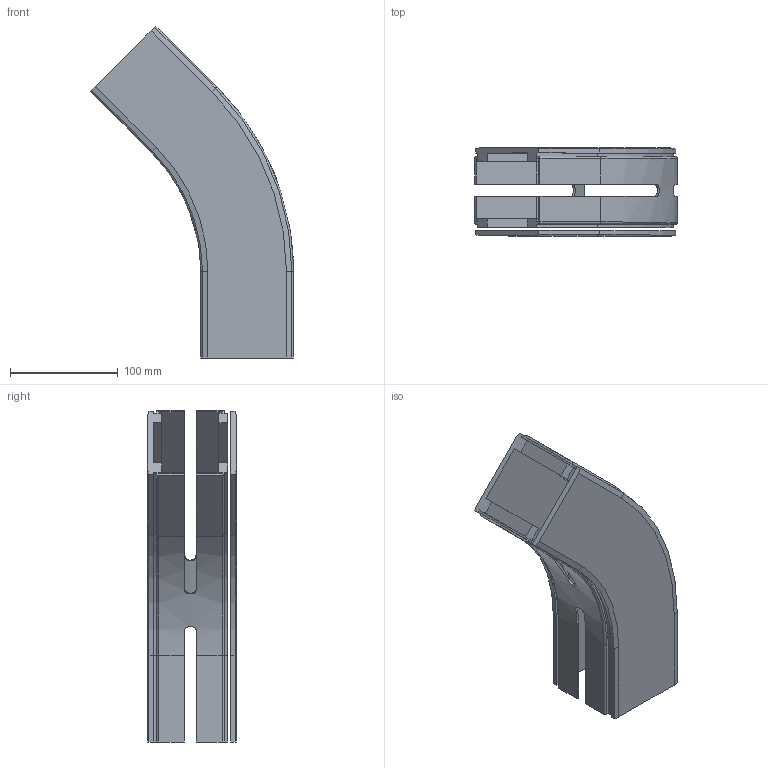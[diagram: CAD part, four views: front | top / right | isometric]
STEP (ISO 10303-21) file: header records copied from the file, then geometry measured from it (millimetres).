
FILE_DESCRIPTION(/* description */ ('GLIDKURVA SERIE 530'),/* implementation_level */ '2;1');
FILE_NAME(/* name */ '530-5375+830-2000-01.stp',/* time_stamp */ '2022-09-20T14:40:45+02:00',/* author */ ('Mathias.Dore'),/* organization */ ('CARRYLINE'),/* preprocessor_version */ 'ST-DEVELOPER v19.2',/* originating_system */ 'Autodesk Inventor 2023',/* authorisation */ '');
FILE_SCHEMA (('AUTOMOTIVE_DESIGN { 1 0 10303 214 3 1 1 }'));
Length unit declared in the file: millimetre
Products named in the file (1): 530-5375+830-2000-01
Bounding box: 188.55 x 82 x 308.4 mm (x, y, z)
Volume: 458634.6 mm3; surface area: 221037.6 mm2
Topology: 2 solids, 2 shells, 167 faces, 458 edges, 300 vertices
Faces by surface type: plane 113, cylinder 28, bspline 18, torus 4, cone 4
Entity records: 5641 total; most frequent: CARTESIAN_POINT 1348, ORIENTED_EDGE 916, DIRECTION 802, EDGE_CURVE 458, LINE 342, VECTOR 342, VERTEX_POINT 300, AXIS2_PLACEMENT_3D 230
